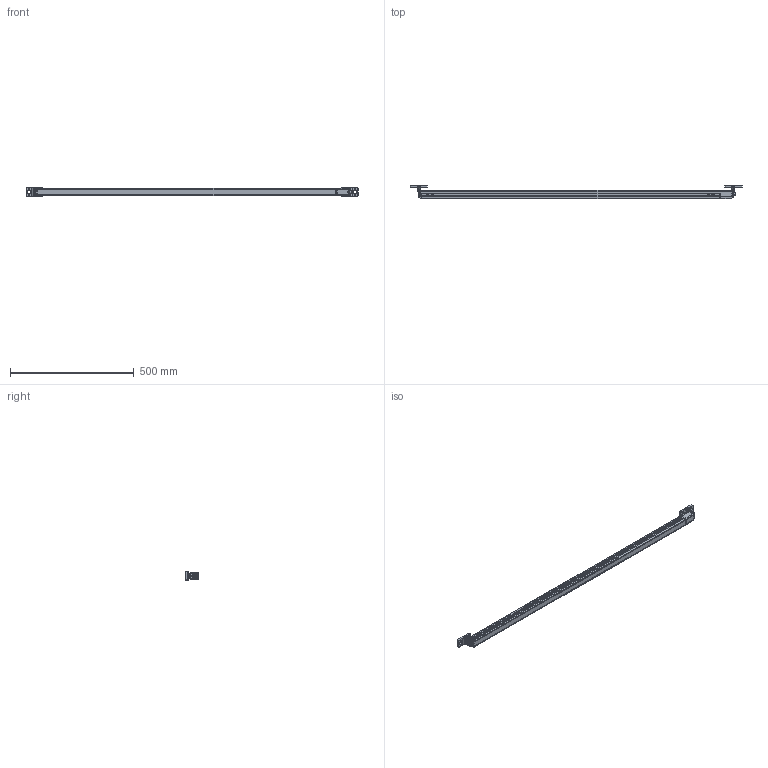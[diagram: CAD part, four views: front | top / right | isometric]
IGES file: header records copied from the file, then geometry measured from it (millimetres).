
Global section: file name: No Iges File Name specified; native system: Autodesk Inventor 2009; preprocessor: AutoDesk Inventor Iges Exporter R2009; author: seisen; date: 20121207.093150; units: millimetre
Bounding box: 1339.91 x 55.35 x 34 mm (x, y, z)
Volume: 1178525.9 mm3; surface area: 228550.5 mm2
Topology: 21 solids, 21 shells, 867 faces, 2297 edges, 1454 vertices
Faces by surface type: plane 350, cylinder 171, revolution 158, bspline 76, torus 49, cone 45, sphere 18
